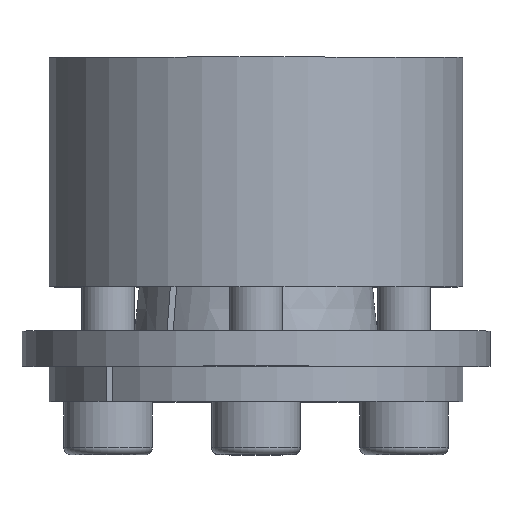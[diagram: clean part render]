
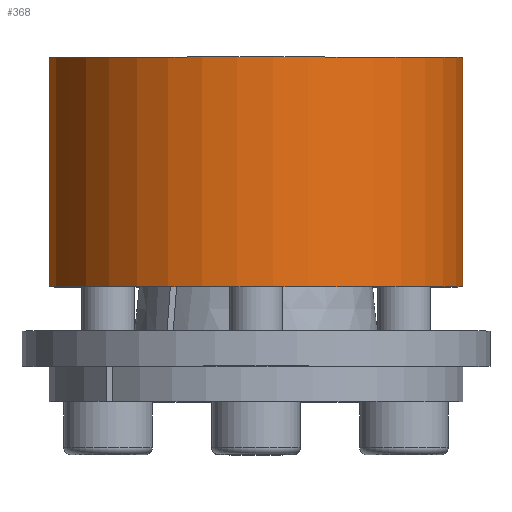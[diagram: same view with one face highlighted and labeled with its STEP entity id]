
A CAD part, top view. The second image highlights one B-rep face of the part: STEP entity #368.
In plain terms, the highlighted cylindrical face has radius 23.5 mm (diameter 47 mm), a partial arc.
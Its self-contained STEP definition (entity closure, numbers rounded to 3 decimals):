
#368 = ADVANCED_FACE( '', ( #598 ), #599, .T. );
#598 = FACE_OUTER_BOUND( '', #746, .T. );
#599 = CYLINDRICAL_SURFACE( '', #747, 23.5 );
#746 = EDGE_LOOP( '', ( #1030, #1031, #1032, #1033 ) );
#747 = AXIS2_PLACEMENT_3D( '', #1034, #1035, #1036 );
#1030 = ORIENTED_EDGE( '', *, *, #1350, .F. );
#1031 = ORIENTED_EDGE( '', *, *, #1333, .T. );
#1032 = ORIENTED_EDGE( '', *, *, #1352, .T. );
#1033 = ORIENTED_EDGE( '', *, *, #1353, .F. );
#1034 = CARTESIAN_POINT( '', ( 0., -60., 0. ) );
#1035 = DIRECTION( '', ( 0., 1., 0. ) );
#1036 = DIRECTION( '', ( 0., 0., -1. ) );
#1333 = EDGE_CURVE( '', #1513, #1522, #1524, .F. );
#1350 = EDGE_CURVE( '', #1513, #1549, #1550, .T. );
#1352 = EDGE_CURVE( '', #1522, #1552, #1553, .T. );
#1353 = EDGE_CURVE( '', #1549, #1552, #1554, .F. );
#1513 = VERTEX_POINT( '', #1695 );
#1522 = VERTEX_POINT( '', #1710 );
#1524 = LINE( '', #1713, #1714 );
#1549 = VERTEX_POINT( '', #1750 );
#1550 = CIRCLE( '', #1751, 23.5 );
#1552 = VERTEX_POINT( '', #1754 );
#1553 = CIRCLE( '', #1755, 23.5 );
#1554 = LINE( '', #1756, #1757 );
#1695 = CARTESIAN_POINT( '', ( 16.967, 13., -16.26 ) );
#1710 = CARTESIAN_POINT( '', ( 16.967, 39., -16.26 ) );
#1713 = CARTESIAN_POINT( '', ( 16.967, -60., -16.26 ) );
#1714 = VECTOR( '', #1868, 1000. );
#1750 = CARTESIAN_POINT( '', ( 16.26, 13., -16.967 ) );
#1751 = AXIS2_PLACEMENT_3D( '', #1898, #1899, #1900 );
#1754 = CARTESIAN_POINT( '', ( 16.26, 39., -16.967 ) );
#1755 = AXIS2_PLACEMENT_3D( '', #1902, #1903, #1904 );
#1756 = CARTESIAN_POINT( '', ( 16.26, -60., -16.967 ) );
#1757 = VECTOR( '', #1905, 1000. );
#1868 = DIRECTION( '', ( 0., -1., 0. ) );
#1898 = CARTESIAN_POINT( '', ( 0., 13., 0. ) );
#1899 = DIRECTION( '', ( 0., -1., 0. ) );
#1900 = DIRECTION( '', ( 0., 0., -1. ) );
#1902 = CARTESIAN_POINT( '', ( 0., 39., 0. ) );
#1903 = DIRECTION( '', ( 0., -1., 0. ) );
#1904 = DIRECTION( '', ( 0., 0., -1. ) );
#1905 = DIRECTION( '', ( 0., -1., 0. ) );
